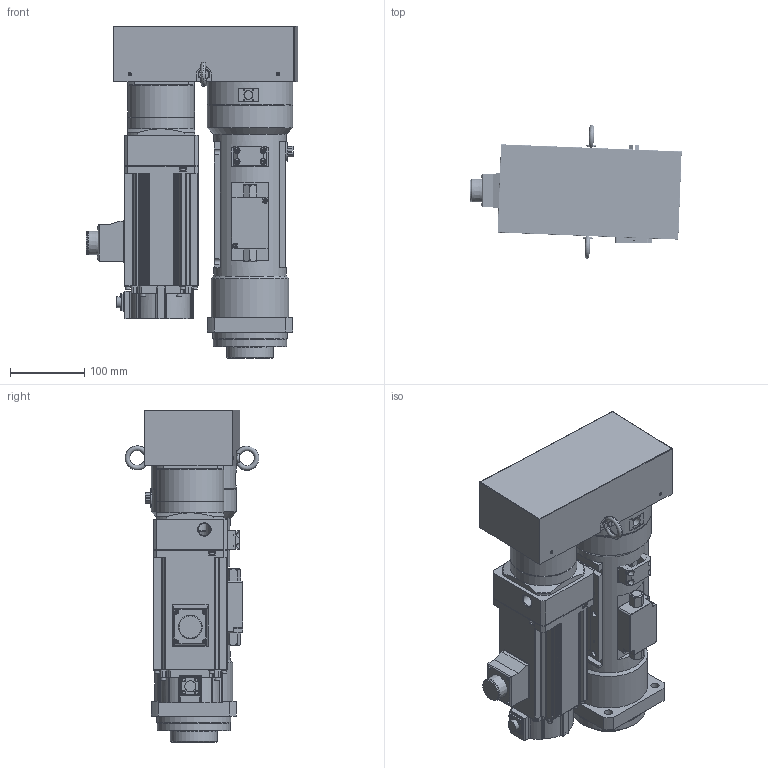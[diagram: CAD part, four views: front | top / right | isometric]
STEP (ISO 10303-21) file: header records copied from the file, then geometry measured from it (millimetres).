
FILE_DESCRIPTION( ('This file contains a STEP AP42 implementation' ,'as created by ZW3D STEP Interface translator.') ,'2;1' );
FILE_NAME( 'OACIS-DS-P015-100-265-A6V200_20.51.stp' ,'26 416.111321', (''), ('ZWCAD Software Co.'), 'Version 1.0', 'ZW3D to STEP translator', '' );
FILE_SCHEMA(('AUTOMOTIVE_DESIGN { 1 0 10303 214 1 1 1 1 }'));
Length unit declared in the file: millimetre
Products named in the file (1): 0
Bounding box: 285.18 x 180.78 x 448 mm (x, y, z)
Volume: 5809742.3 mm3; surface area: 1031754.3 mm2
Topology: 43 solids, 47 shells, 1768 faces, 4574 edges, 3062 vertices
Faces by surface type: plane 757, cylinder 698, cone 215, torus 72, sphere 16, bspline 10
Full cylindrical faces by diameter (mm): 1.6 x8, 2.459 x5, 2.75 x4, 3.2 x5, 3.3 x66, 4.2 x4, 4.3 x21, 4.5 x4, 5 x32, 5.5 x4, 6.5 x8, 6.6 x8, 6.647 x5, 6.8 x36, 7 x12, 8 x33, 8.4 x8, 8.5 x17, 9 x4, 11 x12, 12 x1, 14.8 x1, 15 x8, 15.5 x2, 16.5 x2, 18 x3, 18.917 x2, 19 x2, 20 x5, 22 x1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
Entity records: 59603 total; most frequent: CARTESIAN_POINT 12695, DIRECTION 9897, ORIENTED_EDGE 8906, EDGE_CURVE 4481, AXIS2_PLACEMENT_3D 3805, VERTEX_POINT 3006, VECTOR 2287, LINE 2287
